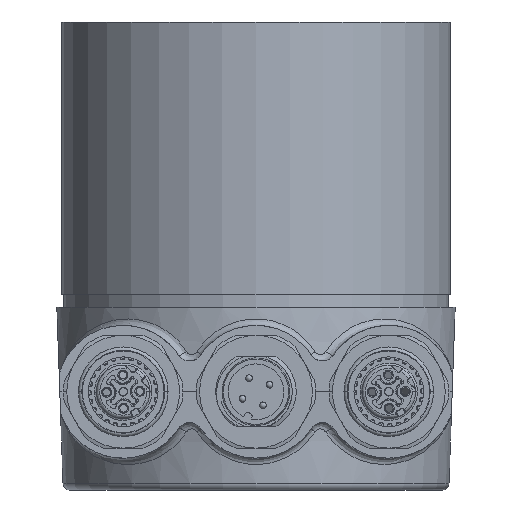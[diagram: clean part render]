
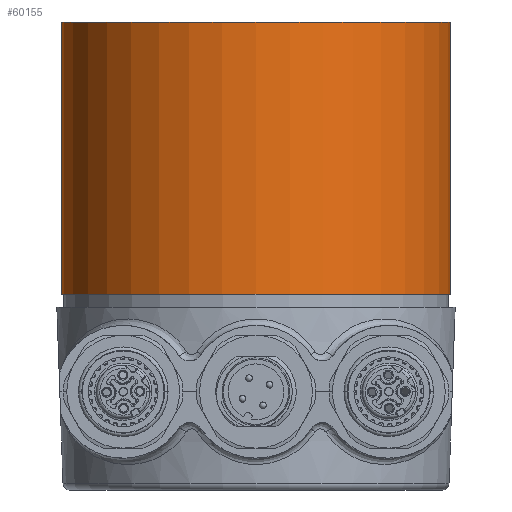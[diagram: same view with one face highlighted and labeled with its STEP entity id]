
A CAD part, front view. The second image highlights one B-rep face of the part: STEP entity #60155.
In plain terms, the highlighted cylindrical face has radius 29.3 mm (diameter 58.6 mm), a partial arc.
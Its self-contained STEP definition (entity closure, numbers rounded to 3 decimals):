
#18439 = CARTESIAN_POINT ( 'NONE',  ( 0., 0., 29.5 ) ) ;
#18483 = CARTESIAN_POINT ( 'NONE',  ( 29.3, 0., 29.5 ) ) ;
#18498 = DIRECTION ( 'NONE',  ( -1., 0., 0. ) ) ;
#18501 = DIRECTION ( 'NONE',  ( 0., 0., 1. ) ) ;
#18502 = AXIS2_PLACEMENT_3D ( 'NONE', #18439, #18501, #18498 ) ;
#18503 = CIRCLE ( 'NONE', #18502, 29.3 ) ;
#18553 = CARTESIAN_POINT ( 'NONE',  ( 29.3, 0., 70.5 ) ) ;
#18562 = CARTESIAN_POINT ( 'NONE',  ( -29.3, 0., 29.5 ) ) ;
#18586 = DIRECTION ( 'NONE',  ( 0., 0., 1. ) ) ;
#18587 = CARTESIAN_POINT ( 'NONE',  ( 0., 0., 70.5 ) ) ;
#18589 = AXIS2_PLACEMENT_3D ( 'NONE', #18587, #18586, #18666 ) ;
#18590 = CIRCLE ( 'NONE', #18589, 29.3 ) ;
#18634 = DIRECTION ( 'NONE',  ( 1., 0., 0. ) ) ;
#18635 = DIRECTION ( 'NONE',  ( 0., 0., -1. ) ) ;
#18636 = CARTESIAN_POINT ( 'NONE',  ( 0., 0., 70.5 ) ) ;
#18638 = AXIS2_PLACEMENT_3D ( 'NONE', #18636, #18635, #18634 ) ;
#18641 = CYLINDRICAL_SURFACE ( 'NONE', #18638, 29.3 ) ;
#18642 = FACE_OUTER_BOUND ( 'NONE', #60118, .T. ) ;
#18662 = DIRECTION ( 'NONE',  ( 0., 0., -1. ) ) ;
#18663 = VECTOR ( 'NONE', #18662, 1000. ) ;
#18664 = CARTESIAN_POINT ( 'NONE',  ( -29.3, 0., 70.5 ) ) ;
#18665 = LINE ( 'NONE', #18664, #18663 ) ;
#18666 = DIRECTION ( 'NONE',  ( -1., 0., 0. ) ) ;
#18699 = CARTESIAN_POINT ( 'NONE',  ( -29.3, 0., 70.5 ) ) ;
#18716 = DIRECTION ( 'NONE',  ( 0., 0., -1. ) ) ;
#18718 = VECTOR ( 'NONE', #18716, 1000. ) ;
#18719 = CARTESIAN_POINT ( 'NONE',  ( 29.3, 0., 70.5 ) ) ;
#18724 = LINE ( 'NONE', #18719, #18718 ) ;
#59707 = ORIENTED_EDGE ( 'NONE', *, *, #59718, .T. ) ;
#59718 = EDGE_CURVE ( 'NONE', #59992, #59746, #18503, .T. ) ;
#59746 = VERTEX_POINT ( 'NONE', #18483 ) ;
#59762 = ORIENTED_EDGE ( 'NONE', *, *, #60326, .F. ) ;
#59992 = VERTEX_POINT ( 'NONE', #18562 ) ;
#60033 = VERTEX_POINT ( 'NONE', #18553 ) ;
#60100 = ORIENTED_EDGE ( 'NONE', *, *, #60112, .F. ) ;
#60102 = ORIENTED_EDGE ( 'NONE', *, *, #60116, .T. ) ;
#60112 = EDGE_CURVE ( 'NONE', #60195, #60033, #18590, .T. ) ;
#60116 = EDGE_CURVE ( 'NONE', #60195, #59992, #18665, .T. ) ;
#60118 = EDGE_LOOP ( 'NONE', ( #60100, #60102, #59707, #59762 ) ) ;
#60155 = ADVANCED_FACE ( 'NONE', ( #18642 ), #18641, .T. ) ;
#60195 = VERTEX_POINT ( 'NONE', #18699 ) ;
#60326 = EDGE_CURVE ( 'NONE', #60033, #59746, #18724, .T. ) ;
